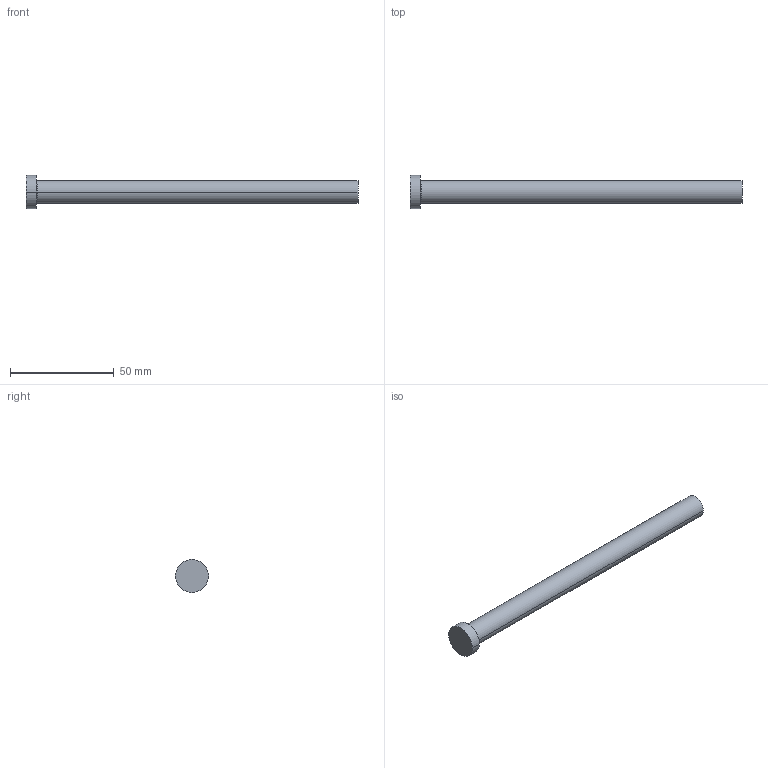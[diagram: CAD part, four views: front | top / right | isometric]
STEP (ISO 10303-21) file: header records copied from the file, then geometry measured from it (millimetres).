
FILE_DESCRIPTION (( 'STEP AP214' ), '1' );
FILE_NAME ('A-11x160.STEP', '2020-05-29T16:05:19', ( 'August' ), ( '' ), 'SwSTEP 2.0', 'SolidWorks 2018', '' );
FILE_SCHEMA (( 'AUTOMOTIVE_DESIGN' ));
Length unit declared in the file: millimetre
Products named in the file (1): A-11x160
Bounding box: 160 x 16 x 16 mm (x, y, z)
Volume: 15737.3 mm3; surface area: 6002.6 mm2
Topology: 1 solids, 1 shells, 9 faces, 16 edges, 10 vertices
Faces by surface type: cylinder 4, plane 3, torus 2
Entity records: 260 total; most frequent: DIRECTION 48, CARTESIAN_POINT 36, ORIENTED_EDGE 32, AXIS2_PLACEMENT_3D 22, EDGE_CURVE 16, CIRCLE 12, EDGE_LOOP 10, VERTEX_POINT 10
